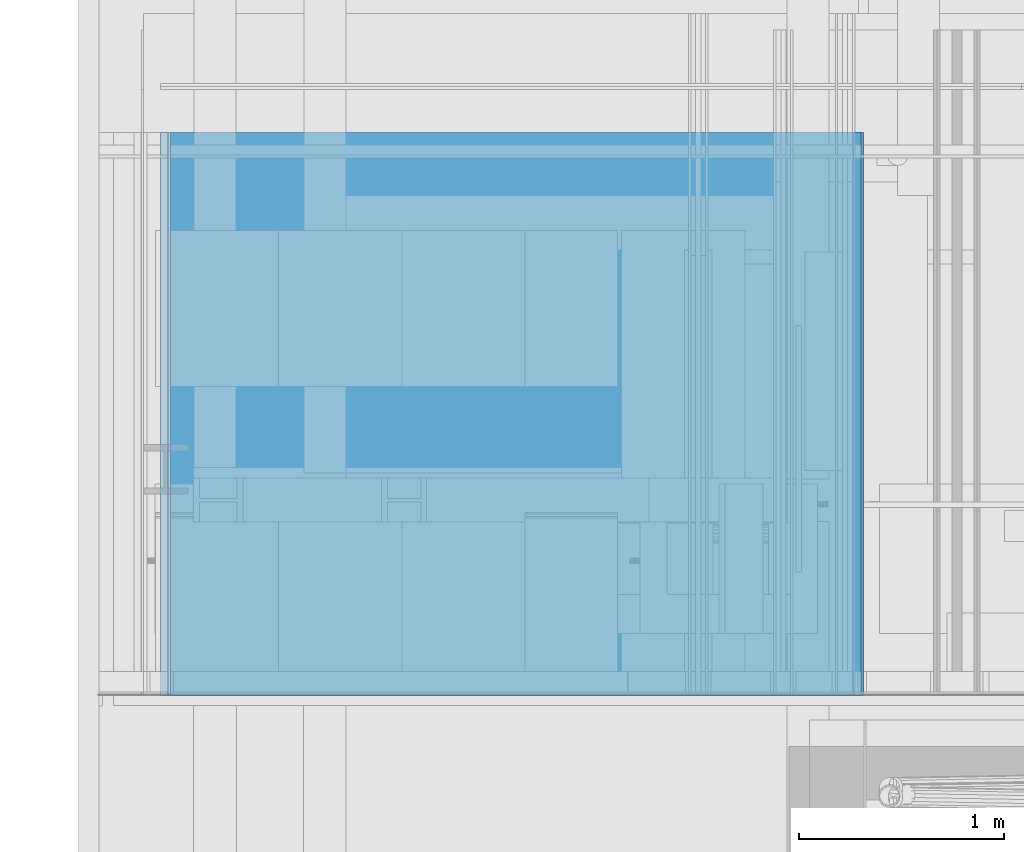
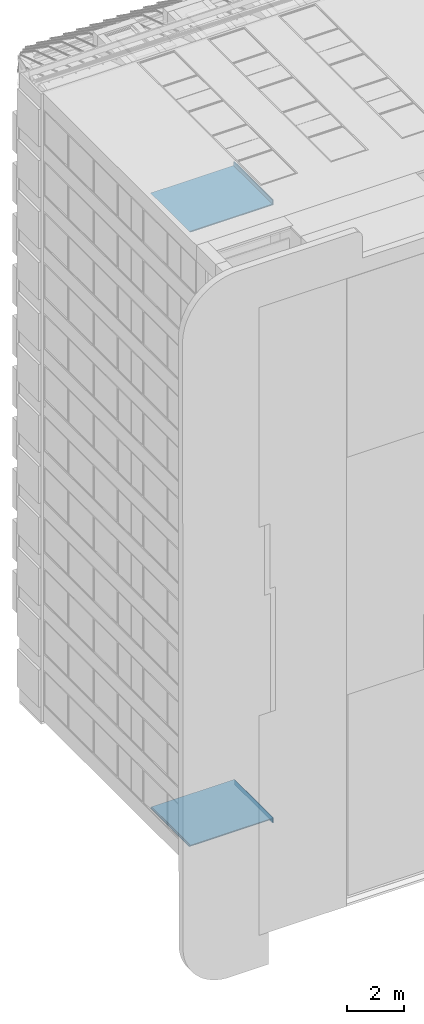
# One storey, part 39 of 583: 8 building element parts, 4 elements without a shape of their own.
"""IFC2X3 building model written with IfcOpenShell, lengths in metres."""

from ifc_helpers import new_model, entity, si_unit, converted_unit, derived_unit, money_unit, direction, frame, frame_2d, origin_with_axes, place, context, subcontext, project, spatial, polyline, rectangle, outline, extrude, material, type_object, element, aggregate, save


model = new_model("IFC2X3")

# Units and contexts
model_context = context("Model", 3, precision=1e-05, world=origin_with_axes(), true_north=direction((0.0, 1.0)))
body_context = subcontext(model_context, "Body", "Model", "MODEL_VIEW", scale=1.0)
ifc_project = project(units=[si_unit("LENGTHUNIT", "METRE"), si_unit("AREAUNIT", "SQUARE_METRE"), si_unit("VOLUMEUNIT", "CUBIC_METRE"), si_unit("ABSORBEDDOSEUNIT", "GRAY"), si_unit("AMOUNTOFSUBSTANCEUNIT", "MOLE"), si_unit("DOSEEQUIVALENTUNIT", "SIEVERT"), si_unit("ELECTRICCAPACITANCEUNIT", "FARAD"), si_unit("ELECTRICCHARGEUNIT", "COULOMB"), si_unit("ELECTRICCONDUCTANCEUNIT", "SIEMENS"), si_unit("ELECTRICCURRENTUNIT", "AMPERE"), si_unit("ELECTRICRESISTANCEUNIT", "OHM"), si_unit("ELECTRICVOLTAGEUNIT", "VOLT"), si_unit("ENERGYUNIT", "JOULE"), si_unit("FORCEUNIT", "NEWTON"), si_unit("FREQUENCYUNIT", "HERTZ"), si_unit("ILLUMINANCEUNIT", "LUX"), si_unit("INDUCTANCEUNIT", "HENRY"), si_unit("LUMINOUSFLUXUNIT", "LUMEN"), si_unit("LUMINOUSINTENSITYUNIT", "CANDELA"), si_unit("MAGNETICFLUXDENSITYUNIT", "TESLA"), si_unit("MAGNETICFLUXUNIT", "WEBER"), si_unit("MASSUNIT", "GRAM"), converted_unit("PLANEANGLEUNIT", "degree", entity("IfcReal", 0.0174532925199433), si_unit("PLANEANGLEUNIT", "RADIAN"), dimensions=[0, 0, 0, 0, 0, 0, 0]), si_unit("POWERUNIT", "WATT"), si_unit("PRESSUREUNIT", "PASCAL"), si_unit("RADIOACTIVITYUNIT", "BECQUEREL"), si_unit("SOLIDANGLEUNIT", "STERADIAN"), si_unit("THERMODYNAMICTEMPERATUREUNIT", "KELVIN"), si_unit("TIMEUNIT", "SECOND"), derived_unit("ACCELERATIONUNIT", [(si_unit("LENGTHUNIT", "METRE"), 1), (si_unit("TIMEUNIT", "SECOND"), -2)]), derived_unit("ANGULARVELOCITYUNIT", [(converted_unit("PLANEANGLEUNIT", "degree", entity("IfcReal", 0.0174532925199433), si_unit("PLANEANGLEUNIT", "RADIAN"), dimensions=[0, 0, 0, 0, 0, 0, 0]), 1), (si_unit("TIMEUNIT", "SECOND"), -1)]), derived_unit("CURVATUREUNIT", [(converted_unit("PLANEANGLEUNIT", "degree", entity("IfcReal", 0.0174532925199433), si_unit("PLANEANGLEUNIT", "RADIAN"), dimensions=[0, 0, 0, 0, 0, 0, 0]), 1), (si_unit("LENGTHUNIT", "METRE"), -1)]), derived_unit("DYNAMICVISCOSITYUNIT", [(si_unit("PRESSUREUNIT", "PASCAL"), 1), (si_unit("TIMEUNIT", "SECOND"), 1)]), derived_unit("HEATFLUXDENSITYUNIT", [(si_unit("POWERUNIT", "WATT"), 1), (si_unit("LENGTHUNIT", "METRE"), -2)]), derived_unit("HEATINGVALUEUNIT", [(si_unit("ENERGYUNIT", "JOULE"), 1), (si_unit("MASSUNIT", "GRAM"), -1)]), derived_unit("INTEGERCOUNTRATEUNIT", [(si_unit("TIMEUNIT", "SECOND"), -1)]), derived_unit("IONCONCENTRATIONUNIT", [(si_unit("MASSUNIT", "GRAM"), 1), (si_unit("VOLUMEUNIT", "CUBIC_METRE"), -1)]), derived_unit("ISOTHERMALMOISTURECAPACITYUNIT", [(si_unit("VOLUMEUNIT", "CUBIC_METRE"), 1), (si_unit("MASSUNIT", "GRAM"), -1)]), derived_unit("KINEMATICVISCOSITYUNIT", [(si_unit("AREAUNIT", "SQUARE_METRE"), 1), (si_unit("TIMEUNIT", "SECOND"), -1)]), derived_unit("LINEARFORCEUNIT", [(si_unit("FORCEUNIT", "NEWTON"), 1), (si_unit("LENGTHUNIT", "METRE"), -1)]), derived_unit("LINEARMOMENTUNIT", [(si_unit("FORCEUNIT", "NEWTON"), 1), (si_unit("LENGTHUNIT", "METRE"), -1)]), derived_unit("LINEARSTIFFNESSUNIT", [(si_unit("FORCEUNIT", "NEWTON"), 1), (si_unit("LENGTHUNIT", "METRE"), -1)]), derived_unit("LINEARVELOCITYUNIT", [(si_unit("LENGTHUNIT", "METRE"), 1), (si_unit("TIMEUNIT", "SECOND"), -1)]), derived_unit("LUMINOUSINTENSITYDISTRIBUTIONUNIT", [(si_unit("LUMINOUSINTENSITYUNIT", "CANDELA"), 1), (si_unit("LUMINOUSFLUXUNIT", "LUMEN"), -1)]), derived_unit("MASSDENSITYUNIT", [(si_unit("MASSUNIT", "GRAM"), 1), (si_unit("VOLUMEUNIT", "CUBIC_METRE"), -1)]), derived_unit("MASSFLOWRATEUNIT", [(si_unit("MASSUNIT", "GRAM"), 1), (si_unit("TIMEUNIT", "SECOND"), -1)]), derived_unit("MASSPERLENGTHUNIT", [(si_unit("MASSUNIT", "GRAM"), 1), (si_unit("LENGTHUNIT", "METRE"), -1)]), derived_unit("MODULUSOFELASTICITYUNIT", [(si_unit("FORCEUNIT", "NEWTON"), 1), (si_unit("AREAUNIT", "SQUARE_METRE"), -1)]), derived_unit("MODULUSOFLINEARSUBGRADEREACTIONUNIT", [(si_unit("FORCEUNIT", "NEWTON"), 1), (si_unit("LENGTHUNIT", "METRE"), -2)]), derived_unit("MODULUSOFROTATIONALSUBGRADEREACTIONUNIT", [(si_unit("FORCEUNIT", "NEWTON"), 1), (si_unit("LENGTHUNIT", "METRE"), 1)]), derived_unit("MODULUSOFSUBGRADEREACTIONUNIT", [(si_unit("FORCEUNIT", "NEWTON"), 1), (si_unit("VOLUMEUNIT", "CUBIC_METRE"), -1)]), derived_unit("MOISTUREDIFFUSIVITYUNIT", [(si_unit("VOLUMEUNIT", "CUBIC_METRE"), 1), (si_unit("TIMEUNIT", "SECOND"), -1)]), derived_unit("MOLECULARWEIGHTUNIT", [(si_unit("MASSUNIT", "GRAM"), 1), (si_unit("AMOUNTOFSUBSTANCEUNIT", "MOLE"), -1)]), derived_unit("PLANARFORCEUNIT", [(si_unit("FORCEUNIT", "NEWTON"), 1), (si_unit("LENGTHUNIT", "METRE"), -2)]), derived_unit("ROTATIONALFREQUENCYUNIT", [(si_unit("TIMEUNIT", "SECOND"), -1)]), derived_unit("ROTATIONALMASSUNIT", [(si_unit("MASSUNIT", "GRAM"), 1), (si_unit("LENGTHUNIT", "METRE"), 2)]), derived_unit("ROTATIONALSTIFFNESSUNIT", [(si_unit("FORCEUNIT", "NEWTON"), 1), (si_unit("LENGTHUNIT", "METRE"), 1), (converted_unit("PLANEANGLEUNIT", "degree", entity("IfcReal", 0.0174532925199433), si_unit("PLANEANGLEUNIT", "RADIAN"), dimensions=[0, 0, 0, 0, 0, 0, 0]), -1)]), derived_unit("SECTIONAREAINTEGRALUNIT", [(si_unit("LENGTHUNIT", "METRE"), 5)]), derived_unit("SECTIONMODULUSUNIT", [(si_unit("LENGTHUNIT", "METRE"), 3)]), derived_unit("SHEARMODULUSUNIT", [(si_unit("FORCEUNIT", "NEWTON"), 1), (si_unit("AREAUNIT", "SQUARE_METRE"), -1)]), derived_unit("SOUNDPOWERUNIT", [(si_unit("ENERGYUNIT", "JOULE"), 1), (si_unit("TIMEUNIT", "SECOND"), -1)]), derived_unit("SPECIFICHEATCAPACITYUNIT", [(si_unit("FORCEUNIT", "NEWTON"), 1), (si_unit("MASSUNIT", "GRAM"), -1), (si_unit("THERMODYNAMICTEMPERATUREUNIT", "KELVIN"), -1)]), derived_unit("TEMPERATUREGRADIENTUNIT", [(si_unit("THERMODYNAMICTEMPERATUREUNIT", "KELVIN"), 1), (si_unit("LENGTHUNIT", "METRE"), -1)]), derived_unit("THERMALADMITTANCEUNIT", [(si_unit("POWERUNIT", "WATT"), 1), (si_unit("AREAUNIT", "SQUARE_METRE"), -1), (si_unit("THERMODYNAMICTEMPERATUREUNIT", "KELVIN"), -1)]), derived_unit("THERMALCONDUCTANCEUNIT", [(si_unit("POWERUNIT", "WATT"), 1), (si_unit("LENGTHUNIT", "METRE"), -1), (si_unit("THERMODYNAMICTEMPERATUREUNIT", "KELVIN"), -1)]), derived_unit("THERMALEXPANSIONCOEFFICIENTUNIT", [(si_unit("THERMODYNAMICTEMPERATUREUNIT", "KELVIN"), -1)]), derived_unit("THERMALRESISTANCEUNIT", [(si_unit("AREAUNIT", "SQUARE_METRE"), 1), (si_unit("POWERUNIT", "WATT"), -1)]), derived_unit("THERMALTRANSMITTANCEUNIT", [(si_unit("POWERUNIT", "WATT"), 1), (si_unit("AREAUNIT", "SQUARE_METRE"), -1), (si_unit("THERMODYNAMICTEMPERATUREUNIT", "KELVIN"), -1)]), derived_unit("TORQUEUNIT", [(si_unit("FORCEUNIT", "NEWTON"), 1), (si_unit("LENGTHUNIT", "METRE"), 1)]), derived_unit("VAPORPERMEABILITYUNIT", [(si_unit("MASSUNIT", "GRAM"), 1), (si_unit("TIMEUNIT", "SECOND"), -1)]), derived_unit("VOLUMETRICFLOWRATEUNIT", [(si_unit("VOLUMEUNIT", "CUBIC_METRE"), 1), (si_unit("TIMEUNIT", "SECOND"), -1)]), derived_unit("WARPINGCONSTANTUNIT", [(si_unit("LENGTHUNIT", "METRE"), 6)]), derived_unit("WARPINGMOMENTUNIT", [(si_unit("FORCEUNIT", "NEWTON"), 1), (si_unit("LENGTHUNIT", "METRE"), 2)]), money_unit("GBP")], contexts=[model_context])

# Site, building, storey
site_placement = place(None, origin_with_axes())
site = spatial("IfcSite", under=ifc_project, at=site_placement, Name="Site", CompositionType="ELEMENT")
building_placement = place(site_placement, origin_with_axes())
building = spatial("IfcBuilding", under=site, at=building_placement, Name="Building01", CompositionType="ELEMENT")
storey_placement = place(building_placement, frame((0.0, 0.0, 20.78), z_axis=(0.0, 0.0, 1.0), x_axis=(1.0, 0.0, 0.0)))
storey = spatial("IfcBuildingStorey", under=building, at=storey_placement, Name="RL", CompositionType="ELEMENT", Elevation=20.78)

# Wall, building element parts
wall_type = type_object("IfcWallType", Name="SHE_A-Walls_Type06d_ExternalWallInsulation_48mm", PredefinedType="NOTDEFINED")
wall_1_placement = place(storey_placement, frame((0.4, 5.15, 5.93), z_axis=(0.0, 1.0, 0.0), x_axis=(1.0, 0.0, 0.0)))
wall_1 = element("IfcWall", 1, at=wall_1_placement, inside=storey, type_object=wall_type, Name="6D", ObjectType="SHE_A-Walls_Type06d_ExternalWallInsulation_48mm")
ifc_material_1 = material(Name="A_BSUK_Insulation")
placement_1 = place(wall_1_placement, origin_with_axes())
building_element_part_1 = element("IfcBuildingElementPart", 2, at=placement_1, material=ifc_material_1, Name="1", context=body_context, shape_type="SweptSolid", body=[
    extrude(outline(polyline([(3.41018, 0.036), (0.036, 0.036), (0.0, 0.0), (3.41018, 0.0), (3.41018, 0.036)])), origin_with_axes(), (0.0, 0.0, 1.0), 2.74),
])
ifc_material_2 = material(Name="A_BSUK_WallInternal_Finishes_Plasterboard")
building_element_part_2 = element("IfcBuildingElementPart", 3, at=placement_1, material=ifc_material_2, Name="3", context=body_context, shape_type="SweptSolid", body=[
    extrude(outline(polyline([(3.42218, 0.048), (0.048, 0.048), (0.035, 0.035), (3.42218, 0.035), (3.42218, 0.048)])), origin_with_axes(), (0.0, 0.0, 1.0), 2.74),
])
aggregate(wall_1, [building_element_part_1, building_element_part_2])

wall_2_placement = place(storey_placement, frame((3.77418, 5.15, 5.93), z_axis=(0.0, 1.0, 0.0), x_axis=(0.0, 0.0, 1.0)))
wall_2 = element("IfcWall", 4, at=wall_2_placement, inside=storey, type_object=wall_type, Name="6D", ObjectType="SHE_A-Walls_Type06d_ExternalWallInsulation_48mm")
placement_2 = place(wall_2_placement, origin_with_axes())
building_element_part_3 = element("IfcBuildingElementPart", 5, at=placement_2, material=ifc_material_1, Name="1", context=body_context, shape_type="SweptSolid", body=[
    extrude(rectangle(XDim=0.036, YDim=0.17, at=frame_2d((0.085, 0.018), x_axis=(0.0, -1.0))), origin_with_axes(), (0.0, 0.0, 1.0), 2.74),
])
building_element_part_4 = element("IfcBuildingElementPart", 6, at=placement_2, material=ifc_material_2, Name="3", context=body_context, shape_type="SweptSolid", body=[
    extrude(rectangle(XDim=0.013, YDim=0.205, at=frame_2d((0.0675, 0.0415), x_axis=(0.0, -1.0))), origin_with_axes(), (0.0, 0.0, 1.0), 2.74),
])
aggregate(wall_2, [building_element_part_3, building_element_part_4])

wall_3_placement = place(storey_placement, frame((3.77418, 5.15, -20.51), z_axis=(0.0, 1.0, 0.0), x_axis=(0.0, 0.0, -1.0)))
wall_3 = element("IfcWall", 7, at=wall_3_placement, inside=storey, type_object=wall_type, Name="6D", ObjectType="SHE_A-Walls_Type06d_ExternalWallInsulation_48mm")
placement_3 = place(wall_3_placement, origin_with_axes())
building_element_part_5 = element("IfcBuildingElementPart", 8, at=placement_3, material=ifc_material_1, Name="1", context=body_context, shape_type="SweptSolid", body=[
    extrude(rectangle(XDim=0.036, YDim=0.17, at=frame_2d((0.085, -0.018), x_axis=(0.0, -1.0))), origin_with_axes(), (0.0, 0.0, 1.0), 2.74),
])
building_element_part_6 = element("IfcBuildingElementPart", 9, at=placement_3, material=ifc_material_2, Name="3", context=body_context, shape_type="SweptSolid", body=[
    extrude(outline(polyline([(-0.035, -0.035), (-0.048, -0.048), (0.17, -0.048), (0.17, -0.035), (-0.035, -0.035)])), origin_with_axes(), (0.0, 0.0, 1.0), 2.74),
])
aggregate(wall_3, [building_element_part_5, building_element_part_6])

wall_4_placement = place(storey_placement, frame((3.81018, 5.15, -20.51), z_axis=(0.0, 1.0, 0.0), x_axis=(-1.0, 0.0, 0.0)))
wall_4 = element("IfcWall", 10, at=wall_4_placement, inside=storey, type_object=wall_type, Name="6D", ObjectType="SHE_A-Walls_Type06d_ExternalWallInsulation_48mm")
placement_4 = place(wall_4_placement, origin_with_axes())
building_element_part_7 = element("IfcBuildingElementPart", 11, at=placement_4, material=ifc_material_1, Name="1", context=body_context, shape_type="SweptSolid", body=[
    extrude(rectangle(XDim=3.41018, YDim=0.036, at=frame_2d((1.70509, 0.018), x_axis=(-1.0, 0.0))), origin_with_axes(), (0.0, 0.0, 1.0), 2.74),
])
building_element_part_8 = element("IfcBuildingElementPart", 12, at=placement_4, material=ifc_material_2, Name="4", context=body_context, shape_type="SweptSolid", body=[
    extrude(outline(polyline([(3.36218, 0.048), (-0.012, 0.048), (0.001, 0.035), (3.36218, 0.035), (3.36218, 0.048)])), origin_with_axes(), (0.0, 0.0, 1.0), 2.74),
])
aggregate(wall_4, [building_element_part_7, building_element_part_8])

save(model, "model.ifc")
